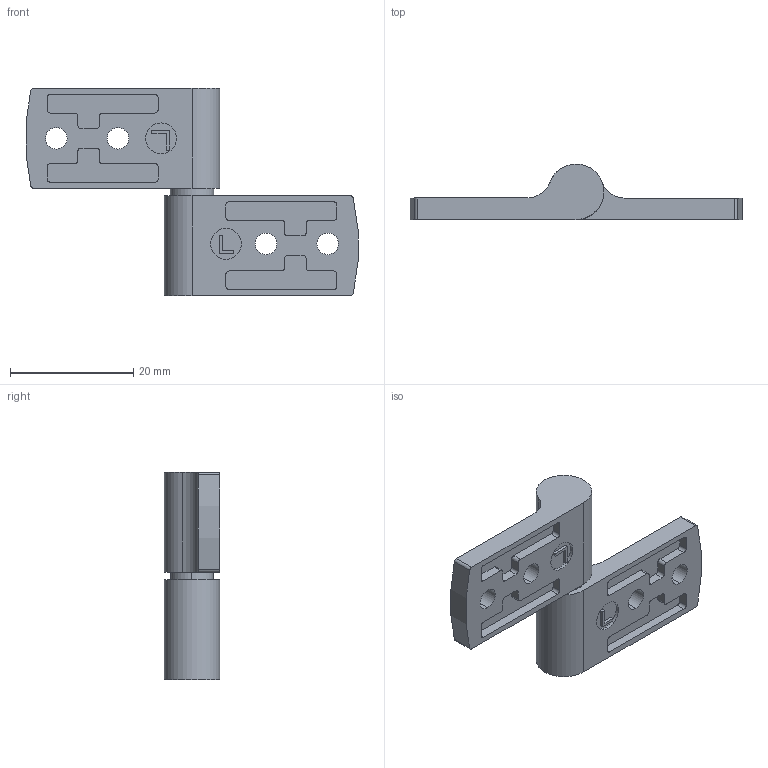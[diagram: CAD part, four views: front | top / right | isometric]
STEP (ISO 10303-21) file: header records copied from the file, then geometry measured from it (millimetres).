
FILE_DESCRIPTION (( 'STEP AP203' ), '1' );
FILE_NAME ('XG11-072L.STEP', '2025-08-01T07:24:14', ( '微软用户' ), ( '微软中国' ), 'SwSTEP 2.0', 'SolidWorks 2024', '' );
FILE_SCHEMA (( 'CONFIG_CONTROL_DESIGN' ));
Length unit declared in the file: millimetre
Products named in the file (1): XG11-072L
Bounding box: 53.81 x 9 x 33.6 mm (x, y, z)
Volume: 4303 mm3; surface area: 3282.2 mm2
Topology: 1 solids, 1 shells, 116 faces, 312 edges, 208 vertices
Faces by surface type: plane 60, cylinder 56
Entity records: 3761 total; most frequent: DIRECTION 658, CARTESIAN_POINT 637, ORIENTED_EDGE 624, EDGE_CURVE 312, AXIS2_PLACEMENT_3D 229, VERTEX_POINT 208, LINE 200, VECTOR 200
